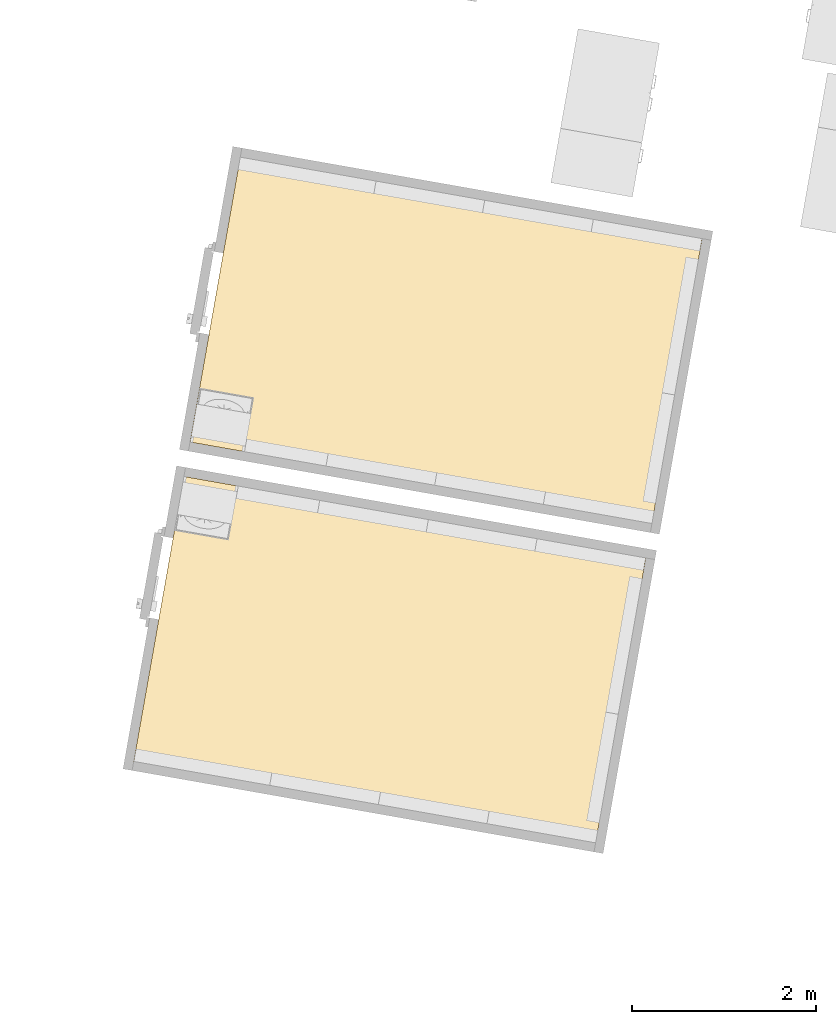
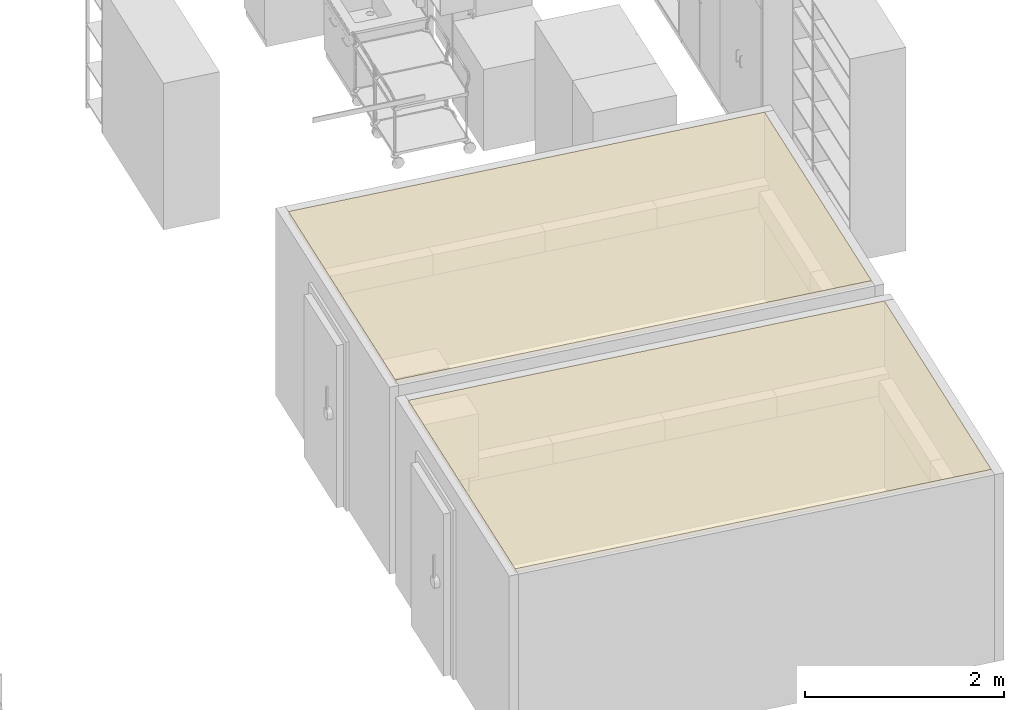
# One storey, part 2 of 32: 2 coverings.
"""IFC2X3 building model written with IfcOpenShell, lengths in metres."""

from ifc_helpers import new_model, entity, si_unit, converted_unit, derived_unit, direction, frame, frame_2d, origin, place, context, subcontext, project, spatial, rectangle, extrude, material, layer, layer_set, layer_usage, type_object, element, save


model = new_model("IFC2X3")

# Units and contexts
model_context = context("Model", 3, precision=1e-05, world=origin(), true_north=direction((6.12303176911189e-17, 1.0)))
body_context = subcontext(model_context, "Body", "Model", "MODEL_VIEW")
ifc_project = project(units=[si_unit("LENGTHUNIT", "METRE"), si_unit("AREAUNIT", "SQUARE_METRE"), si_unit("VOLUMEUNIT", "CUBIC_METRE"), converted_unit("PLANEANGLEUNIT", "DEGREE", entity("IfcRatioMeasure", 0.0174532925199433), si_unit("PLANEANGLEUNIT", "RADIAN"), dimensions=[0, 0, 0, 0, 0, 0, 0]), si_unit("MASSUNIT", "GRAM", prefix="KILO"), derived_unit("MASSDENSITYUNIT", [(si_unit("MASSUNIT", "GRAM", prefix="KILO"), 1), (si_unit("LENGTHUNIT", "METRE"), -3)]), derived_unit("MOMENTOFINERTIAUNIT", [(si_unit("LENGTHUNIT", "METRE"), 4)]), si_unit("TIMEUNIT", "SECOND"), si_unit("FREQUENCYUNIT", "HERTZ"), si_unit("THERMODYNAMICTEMPERATUREUNIT", "DEGREE_CELSIUS"), derived_unit("THERMALTRANSMITTANCEUNIT", [(si_unit("MASSUNIT", "GRAM", prefix="KILO"), 1), (si_unit("THERMODYNAMICTEMPERATUREUNIT", "KELVIN"), -1), (si_unit("TIMEUNIT", "SECOND"), -3)]), derived_unit("VOLUMETRICFLOWRATEUNIT", [(si_unit("LENGTHUNIT", "METRE"), 3), (si_unit("TIMEUNIT", "SECOND"), -1)]), si_unit("ELECTRICCURRENTUNIT", "AMPERE"), si_unit("ELECTRICVOLTAGEUNIT", "VOLT"), si_unit("POWERUNIT", "WATT"), si_unit("FORCEUNIT", "NEWTON", prefix="KILO"), si_unit("ILLUMINANCEUNIT", "LUX"), si_unit("LUMINOUSFLUXUNIT", "LUMEN"), si_unit("LUMINOUSINTENSITYUNIT", "CANDELA"), derived_unit("USERDEFINED", [(si_unit("MASSUNIT", "GRAM", prefix="KILO"), -1), (si_unit("LENGTHUNIT", "METRE"), -2), (si_unit("TIMEUNIT", "SECOND"), 3), (si_unit("LUMINOUSFLUXUNIT", "LUMEN"), 1)]), derived_unit("LINEARVELOCITYUNIT", [(si_unit("LENGTHUNIT", "METRE"), 1), (si_unit("TIMEUNIT", "SECOND"), -1)]), si_unit("PRESSUREUNIT", "PASCAL"), derived_unit("USERDEFINED", [(si_unit("LENGTHUNIT", "METRE"), -2), (si_unit("MASSUNIT", "GRAM", prefix="KILO"), 1), (si_unit("TIMEUNIT", "SECOND"), -2)]), derived_unit("LINEARFORCEUNIT", [(si_unit("MASSUNIT", "GRAM", prefix="KILO"), 1), (si_unit("LENGTHUNIT", "METRE"), 1), (si_unit("TIMEUNIT", "SECOND"), -2), (si_unit("LENGTHUNIT", "METRE"), -1)]), derived_unit("PLANARFORCEUNIT", [(si_unit("MASSUNIT", "GRAM", prefix="KILO"), 1), (si_unit("LENGTHUNIT", "METRE"), 1), (si_unit("TIMEUNIT", "SECOND"), -2), (si_unit("LENGTHUNIT", "METRE"), -2)])], contexts=[model_context])

# Site, building, storey
site_placement = place(None, origin())
site = spatial("IfcSite", under=ifc_project, at=site_placement, Name="Default", CompositionType="ELEMENT")
building_placement = place(site_placement, origin())
building = spatial("IfcBuilding", under=site, at=building_placement, CompositionType="ELEMENT")
storey_placement = place(building_placement, origin())
storey = spatial("IfcBuildingStorey", under=building, at=storey_placement, Name="00 EG", CompositionType="ELEMENT", Elevation=0.0)

# Coverings
ifc_material = material(Name="OWA_OWAlux 64/4 S3 625x625")
ifc_layer_1 = layer(ifc_material, 0.035)
ifc_layer_2 = layer(ifc_material, 0.015)
ifc_layer_set = layer_set([ifc_layer_1, ifc_layer_2], Name="Deckensystem:Reinraumdecke 625x625_15")
ifc_layer_usage_1 = layer_usage(ifc_layer_set, "AXIS3", "POSITIVE", 0.0)
covering_type_1 = type_object("IfcCoveringType", Name="Deckensystem:Reinraumdecke 625x625_15", PredefinedType="CEILING")
covering_1_placement = place(storey_placement, origin())
element("IfcCovering", 1, at=covering_1_placement, inside=storey, type_object=covering_type_1, material=ifc_layer_usage_1, Name="Deckensystem:Reinraumdecke 625x625_15", ObjectType="Deckensystem:Reinraumdecke 625x625_15", PredefinedType="CEILING", context=body_context, shape_type="SweptSolid", body=[
    extrude(rectangle(XDim=5.10200000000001, YDim=3.14700000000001, at=frame_2d((4.44089209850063e-16, -3.21964677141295e-15), x_axis=(1.0, 0.0))), frame((25.6482110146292, 11.6841029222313, 2.25), z_axis=(0.0, 0.0, 1.0), x_axis=(0.984807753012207, -0.173648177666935, 0.0)), (0.0, 0.0, 1.0), 0.05),
])
ifc_layer_usage_2 = layer_usage(ifc_layer_set, "AXIS3", "POSITIVE", 0.0)
covering_type_2 = type_object("IfcCoveringType", Name="Deckensystem:Reinraumdecke 625x625_15", PredefinedType="CEILING")
covering_2_placement = place(storey_placement, origin())
element("IfcCovering", 2, at=covering_2_placement, inside=storey, type_object=covering_type_2, material=ifc_layer_usage_2, Name="Deckensystem:Reinraumdecke 625x625_15", ObjectType="Deckensystem:Reinraumdecke 625x625_15", PredefinedType="CEILING", context=body_context, shape_type="SweptSolid", body=[
    extrude(rectangle(XDim=5.10200000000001, YDim=3.14700000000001, at=frame_2d((6.66133814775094e-16, -4.32986979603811e-15), x_axis=(1.0, 0.0))), frame((25.0357538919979, 8.21068597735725, 2.25), z_axis=(0.0, 0.0, 1.0), x_axis=(0.984807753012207, -0.173648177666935, 0.0)), (0.0, 0.0, 1.0), 0.05),
])

save(model, "model.ifc")
